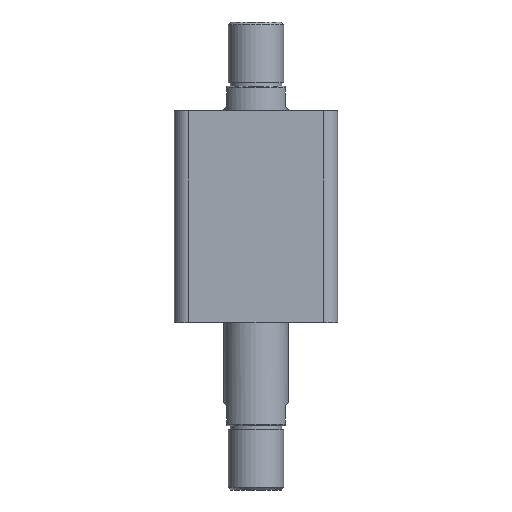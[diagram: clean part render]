
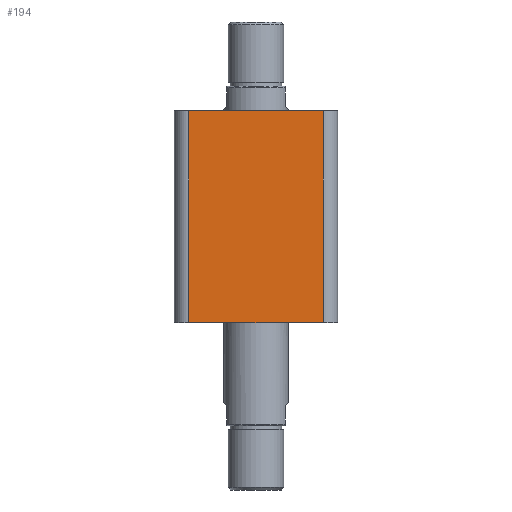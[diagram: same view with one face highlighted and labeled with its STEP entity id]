
A CAD part, front view. The second image highlights one B-rep face of the part: STEP entity #194.
In plain terms, the highlighted planar face has unit normal (0, -1, 0).
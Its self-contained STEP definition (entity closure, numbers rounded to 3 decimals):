
#194 = ADVANCED_FACE ( 'NONE', ( #1369 ), #304, .F. ) ;
#302 = DIRECTION ( 'NONE',  ( 0., 0., 1. ) ) ;
#303 = DIRECTION ( 'NONE',  ( 0., 1., 0. ) ) ;
#304 = PLANE ( 'NONE',  #335 ) ;
#309 = CARTESIAN_POINT ( 'NONE',  ( -57., -57., 148. ) ) ;
#335 = AXIS2_PLACEMENT_3D ( 'NONE', #309, #303, #302 ) ;
#684 = CARTESIAN_POINT ( 'NONE',  ( -47., -57., 0. ) ) ;
#735 = CARTESIAN_POINT ( 'NONE',  ( -47., -57., 148. ) ) ;
#738 = CARTESIAN_POINT ( 'NONE',  ( 47., -57., 148. ) ) ;
#739 = CARTESIAN_POINT ( 'NONE',  ( 47., -57., 0. ) ) ;
#1101 = VERTEX_POINT ( 'NONE', #684 ) ;
#1244 = ORIENTED_EDGE ( 'NONE', *, *, #2093, .T. ) ;
#1245 = ORIENTED_EDGE ( 'NONE', *, *, #2092, .F. ) ;
#1246 = ORIENTED_EDGE ( 'NONE', *, *, #2091, .T. ) ;
#1247 = ORIENTED_EDGE ( 'NONE', *, *, #2090, .T. ) ;
#1344 = VERTEX_POINT ( 'NONE', #738 ) ;
#1345 = VERTEX_POINT ( 'NONE', #735 ) ;
#1346 = VERTEX_POINT ( 'NONE', #739 ) ;
#1369 = FACE_OUTER_BOUND ( 'NONE', #2873, .T. ) ;
#1694 = LINE ( 'NONE', #2564, #1705 ) ;
#1700 = LINE ( 'NONE', #2574, #1703 ) ;
#1703 = VECTOR ( 'NONE', #2575, 1000. ) ;
#1704 = LINE ( 'NONE', #2577, #1707 ) ;
#1705 = VECTOR ( 'NONE', #2576, 1000. ) ;
#1706 = LINE ( 'NONE', #2579, #1709 ) ;
#1707 = VECTOR ( 'NONE', #2578, 1000. ) ;
#1709 = VECTOR ( 'NONE', #2580, 1000. ) ;
#2090 = EDGE_CURVE ( 'NONE', #1101, #1346, #1700, .T. ) ;
#2091 = EDGE_CURVE ( 'NONE', #1346, #1344, #1694, .T. ) ;
#2092 = EDGE_CURVE ( 'NONE', #1345, #1344, #1704, .T. ) ;
#2093 = EDGE_CURVE ( 'NONE', #1345, #1101, #1706, .T. ) ;
#2564 = CARTESIAN_POINT ( 'NONE',  ( 47., -57., 148. ) ) ;
#2574 = CARTESIAN_POINT ( 'NONE',  ( -57., -57., 0. ) ) ;
#2575 = DIRECTION ( 'NONE',  ( 1., 0., 0. ) ) ;
#2576 = DIRECTION ( 'NONE',  ( 0., 0., 1. ) ) ;
#2577 = CARTESIAN_POINT ( 'NONE',  ( -57., -57., 148. ) ) ;
#2578 = DIRECTION ( 'NONE',  ( 1., 0., 0. ) ) ;
#2579 = CARTESIAN_POINT ( 'NONE',  ( -47., -57., 148. ) ) ;
#2580 = DIRECTION ( 'NONE',  ( 0., 0., -1. ) ) ;
#2873 = EDGE_LOOP ( 'NONE', ( #1247, #1246, #1245, #1244 ) ) ;
